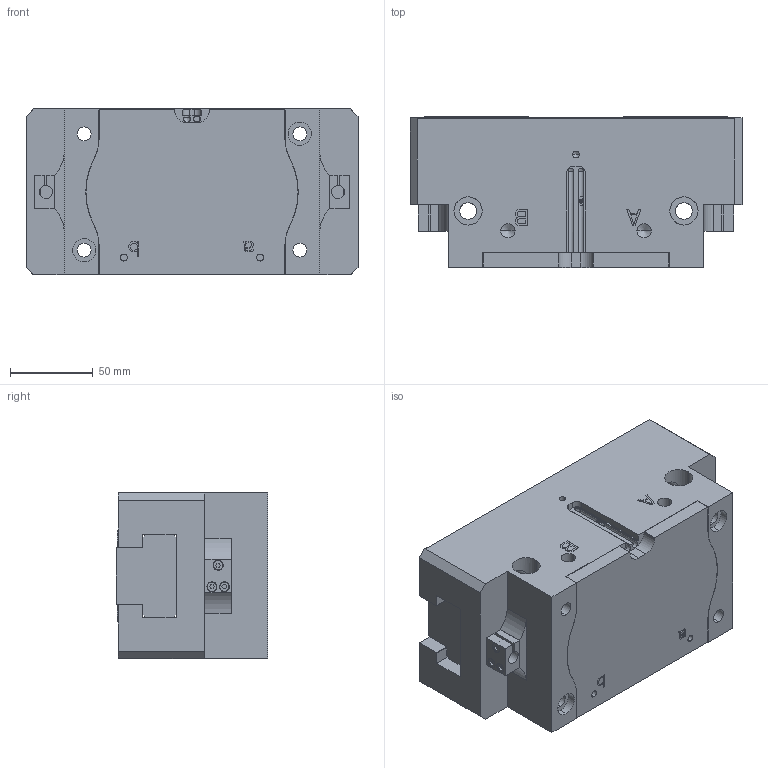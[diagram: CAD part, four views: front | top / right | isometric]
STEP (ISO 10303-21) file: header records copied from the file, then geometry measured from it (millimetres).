
FILE_DESCRIPTION (( 'STEP AP214' ), '1' );
FILE_NAME ('FPT 200A-1.STEP', '2021-09-18T07:44:32', ( 'DEEP' ), ( 'Microsoft' ), 'SwSTEP 2.0', 'SolidWorks 2016', '' );
FILE_SCHEMA (( 'AUTOMOTIVE_DESIGN' ));
Length unit declared in the file: millimetre
Products named in the file (15): FPT 200A-1-006; FPT 200A-1-001; FPT 200A-1-005; FPT 200A-1-002; FPT 200A-1-003; FPT 200A-1-004; FPT 200A-1
Assembly tree (8 placements, depth 2):
  FPT 200A-1-004
  FPT 200A-1-004
  FPT 200A-1-006
  FPT 200A-1-001
  FPT 200A-1-001
Bounding box: 200 x 91 x 100 mm (x, y, z)
Volume: 1519853.2 mm3; surface area: 206693.3 mm2
Topology: 8 solids, 8 shells, 619 faces, 1612 edges, 1033 vertices
Faces by surface type: plane 378, cylinder 171, cone 64, bspline 6
Entity records: 17629 total; most frequent: CARTESIAN_POINT 3733, ORIENTED_EDGE 2736, DIRECTION 2734, EDGE_CURVE 1368, VECTOR 1006, LINE 1006, VERTEX_POINT 901, AXIS2_PLACEMENT_3D 864
